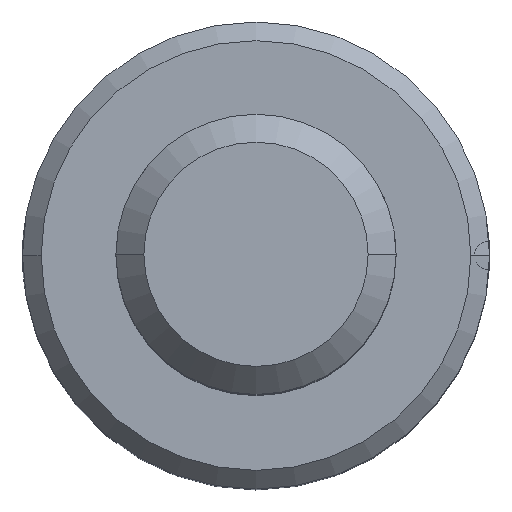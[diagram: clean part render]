
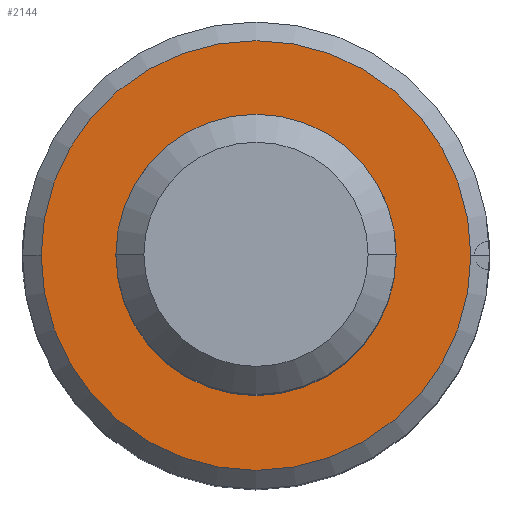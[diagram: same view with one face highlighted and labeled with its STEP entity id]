
A CAD part, top view. The second image highlights one B-rep face of the part: STEP entity #2144.
In plain terms, the highlighted planar face has unit normal (0, 0, 1).
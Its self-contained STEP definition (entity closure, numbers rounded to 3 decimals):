
#5 = CIRCLE ( 'NONE', #260, 7.5 ) ;
#20 = CARTESIAN_POINT ( 'NONE',  ( 0., 0., 0. ) ) ;
#139 = AXIS2_PLACEMENT_3D ( 'NONE', #20, #803, #210 ) ;
#210 = DIRECTION ( 'NONE',  ( 1., 0., 0. ) ) ;
#260 = AXIS2_PLACEMENT_3D ( 'NONE', #2081, #2476, #1512 ) ;
#262 = CARTESIAN_POINT ( 'NONE',  ( 0., 12.5, 0. ) ) ;
#281 = VERTEX_POINT ( 'NONE', #815 ) ;
#288 = VERTEX_POINT ( 'NONE', #1597 ) ;
#444 = AXIS2_PLACEMENT_3D ( 'NONE', #1287, #1094, #501 ) ;
#445 = CARTESIAN_POINT ( 'NONE',  ( 0., 0., 0. ) ) ;
#501 = DIRECTION ( 'NONE',  ( -1., 0., 0. ) ) ;
#537 = CARTESIAN_POINT ( 'NONE',  ( -11.5, 0., 0. ) ) ;
#588 = EDGE_CURVE ( 'NONE', #2507, #281, #5, .T. ) ;
#611 = CARTESIAN_POINT ( 'NONE',  ( -7.5, 0., 0. ) ) ;
#682 = ORIENTED_EDGE ( 'NONE', *, *, #588, .F. ) ;
#803 = DIRECTION ( 'NONE',  ( 0., 0., 1. ) ) ;
#806 = PLANE ( 'NONE',  #871 ) ;
#815 = CARTESIAN_POINT ( 'NONE',  ( 7.5, 0., 0. ) ) ;
#871 = AXIS2_PLACEMENT_3D ( 'NONE', #262, #1008, #1238 ) ;
#904 = DIRECTION ( 'NONE',  ( 0., 0., 1. ) ) ;
#959 = EDGE_CURVE ( 'NONE', #288, #1846, #2129, .T. ) ;
#984 = EDGE_CURVE ( 'NONE', #1846, #288, #1555, .T. ) ;
#1008 = DIRECTION ( 'NONE',  ( 0., 0., -1. ) ) ;
#1094 = DIRECTION ( 'NONE',  ( 0., 0., 1. ) ) ;
#1238 = DIRECTION ( 'NONE',  ( -1., 0., 0. ) ) ;
#1287 = CARTESIAN_POINT ( 'NONE',  ( 0., 0., 0. ) ) ;
#1320 = EDGE_CURVE ( 'NONE', #281, #2507, #2143, .T. ) ;
#1412 = FACE_BOUND ( 'NONE', #1430, .T. ) ;
#1430 = EDGE_LOOP ( 'NONE', ( #1891, #682 ) ) ;
#1471 = AXIS2_PLACEMENT_3D ( 'NONE', #445, #904, #1671 ) ;
#1512 = DIRECTION ( 'NONE',  ( 1., 0., 0. ) ) ;
#1555 = CIRCLE ( 'NONE', #444, 11.5 ) ;
#1597 = CARTESIAN_POINT ( 'NONE',  ( 11.5, 0., 0. ) ) ;
#1613 = FACE_OUTER_BOUND ( 'NONE', #1641, .T. ) ;
#1641 = EDGE_LOOP ( 'NONE', ( #2159, #1780 ) ) ;
#1671 = DIRECTION ( 'NONE',  ( -1., 0., 0. ) ) ;
#1780 = ORIENTED_EDGE ( 'NONE', *, *, #959, .T. ) ;
#1846 = VERTEX_POINT ( 'NONE', #537 ) ;
#1891 = ORIENTED_EDGE ( 'NONE', *, *, #1320, .F. ) ;
#2081 = CARTESIAN_POINT ( 'NONE',  ( 0., 0., 0. ) ) ;
#2129 = CIRCLE ( 'NONE', #1471, 11.5 ) ;
#2143 = CIRCLE ( 'NONE', #139, 7.5 ) ;
#2144 = ADVANCED_FACE ( 'NONE', ( #1613, #1412 ), #806, .F. ) ;
#2159 = ORIENTED_EDGE ( 'NONE', *, *, #984, .T. ) ;
#2476 = DIRECTION ( 'NONE',  ( 0., 0., 1. ) ) ;
#2507 = VERTEX_POINT ( 'NONE', #611 ) ;
